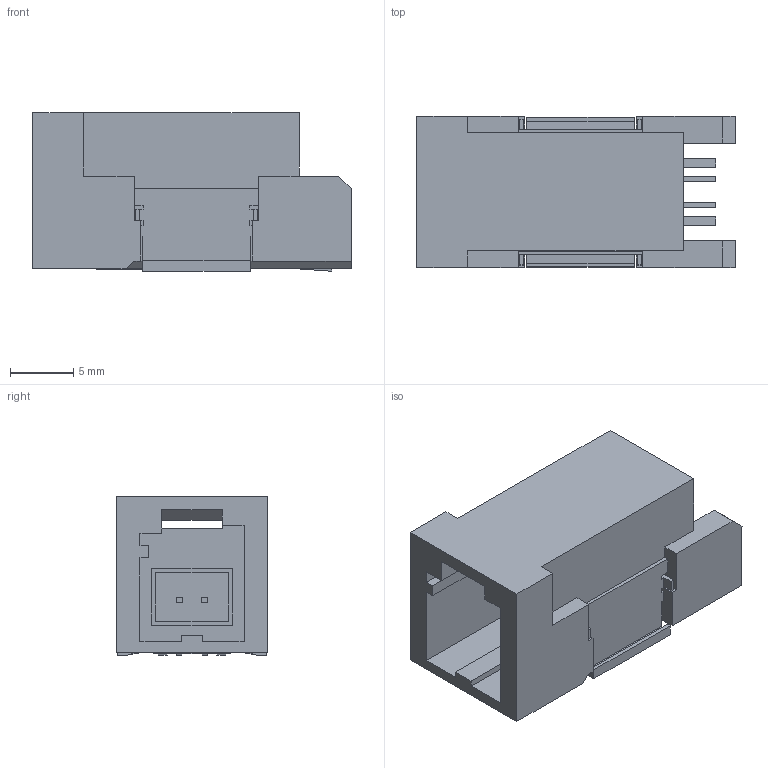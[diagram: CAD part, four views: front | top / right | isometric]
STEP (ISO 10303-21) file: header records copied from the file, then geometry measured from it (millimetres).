
FILE_DESCRIPTION(('CATIA V5 STEP','CAx-IF Rec.Pracs.--- Model Styling and Organization---1.5--- 2016-08-15','CAx-IF Rec.Pracs.---Supplemental Geometry---1.0---2011-11-01','CAx-IF Rec.Pracs.--- Composite Materials ---1.1---2010-07-15'),'2;1');
FILE_NAME('\\fss02.ad.sws.co.jp\fs100070\事務・購入\特命業務\特-35ｰ部品総合カタログメンテナンス\26年度\WEBカタログ用3D\260612_webカタログ新規登録用簡易3D\モデル保存場所\HFD-S2シリーズ\6910-8972.stp','2026-06-25T09:15:07+00:00',('none'),('none'),'CATIA Version 5-6 Release 2022 SP2 HF23','CATIA V5 STEP AP214 v2','none');
FILE_SCHEMA(('AUTOMOTIVE_DESIGN { 1 0 10303 214 1 1 1 1 }'));
Length unit declared in the file: millimetre
Products named in the file (1): 6910-8972
Bounding box: 25.1 x 11.9 x 12.51 mm (x, y, z)
Volume: 1676.4 mm3; surface area: 2516.4 mm2
Topology: 1 solids, 1 shells, 205 faces, 576 edges, 380 vertices
Faces by surface type: plane 205
Entity records: 6280 total; most frequent: ORIENTED_EDGE 1152, CARTESIAN_POINT 1077, DIRECTION 816, VECTOR 576, EDGE_CURVE 576, LINE 576, VERTEX_POINT 380, EDGE_LOOP 214
